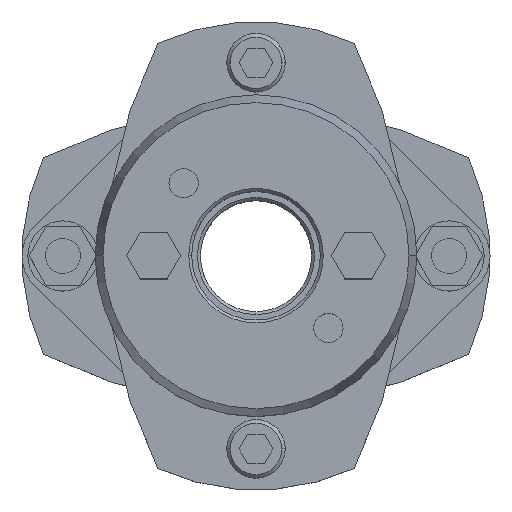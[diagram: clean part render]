
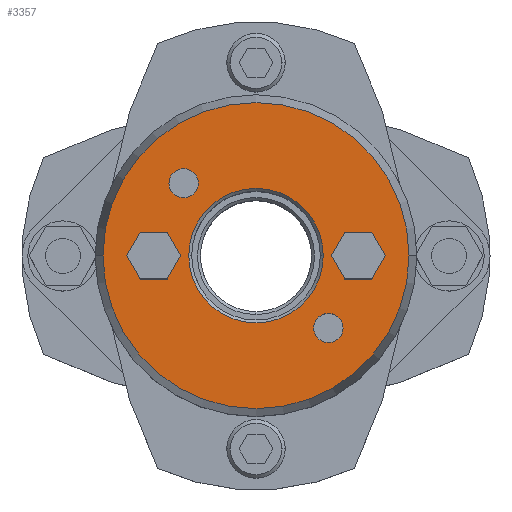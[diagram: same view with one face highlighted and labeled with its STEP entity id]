
A CAD part, top view. The second image highlights one B-rep face of the part: STEP entity #3357.
In plain terms, the highlighted planar face has unit normal (0, 0, 1).
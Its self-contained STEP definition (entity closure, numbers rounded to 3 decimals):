
#1471=CARTESIAN_POINT('',(-11.5,0.,35.875));
#1472=VERTEX_POINT('',#1471);
#1488=CARTESIAN_POINT('',(11.5,0.,35.875));
#1489=VERTEX_POINT('',#1488);
#1496=CARTESIAN_POINT('',(0.,0.,35.875));
#1497=DIRECTION('',(0.0,0.0,1.0));
#1498=DIRECTION('',(-1.0,0.0,0.0));
#1499=AXIS2_PLACEMENT_3D('',#1496,#1497,#1498);
#1500=CIRCLE('',#1499,11.5);
#1501=EDGE_CURVE('',#1489,#1472,#1500,.T.);
#1659=CARTESIAN_POINT('',(26.16,0.,35.875));
#1660=VERTEX_POINT('',#1659);
#1667=CARTESIAN_POINT('',(-26.16,0.,35.875));
#1668=VERTEX_POINT('',#1667);
#1669=CARTESIAN_POINT('',(0.,0.,35.875));
#1670=DIRECTION('',(0.0,0.0,-1.0));
#1671=DIRECTION('',(1.0,0.0,0.0));
#1672=AXIS2_PLACEMENT_3D('',#1669,#1670,#1671);
#1673=CIRCLE('',#1672,26.16);
#1674=EDGE_CURVE('',#1660,#1668,#1673,.T.);
#1769=CARTESIAN_POINT('',(-14.874,12.374,35.875));
#1770=VERTEX_POINT('',#1769);
#1786=CARTESIAN_POINT('',(-9.874,12.374,35.875));
#1787=VERTEX_POINT('',#1786);
#1794=CARTESIAN_POINT('',(-12.374,12.374,35.875));
#1795=DIRECTION('',(0.0,0.0,-1.0));
#1796=DIRECTION('',(-1.0,0.0,0.0));
#1797=AXIS2_PLACEMENT_3D('',#1794,#1795,#1796);
#1798=CIRCLE('',#1797,2.5);
#1799=EDGE_CURVE('',#1770,#1787,#1798,.T.);
#1811=CARTESIAN_POINT('',(9.874,-12.374,35.875));
#1812=VERTEX_POINT('',#1811);
#1828=CARTESIAN_POINT('',(14.874,-12.374,35.875));
#1829=VERTEX_POINT('',#1828);
#1836=CARTESIAN_POINT('',(12.374,-12.374,35.875));
#1837=DIRECTION('',(0.0,0.0,-1.0));
#1838=DIRECTION('',(-1.0,0.0,0.0));
#1839=AXIS2_PLACEMENT_3D('',#1836,#1837,#1838);
#1840=CIRCLE('',#1839,2.5);
#1841=EDGE_CURVE('',#1812,#1829,#1840,.T.);
#2601=CARTESIAN_POINT('',(-22.119,0.,35.875));
#2602=VERTEX_POINT('',#2601);
#2609=CARTESIAN_POINT('',(-19.809,-4.,35.875));
#2610=VERTEX_POINT('',#2609);
#2611=CARTESIAN_POINT('',(-19.809,-4.,35.875));
#2612=DIRECTION('',(-0.5,0.866,0.0));
#2613=VECTOR('',#2612,4.619);
#2614=LINE('',#2611,#2613);
#2615=EDGE_CURVE('',#2610,#2602,#2614,.T.);
#2639=CARTESIAN_POINT('',(-19.809,4.,35.875));
#2640=VERTEX_POINT('',#2639);
#2647=CARTESIAN_POINT('',(-22.119,0.,35.875));
#2648=DIRECTION('',(0.5,0.866,0.0));
#2649=VECTOR('',#2648,4.619);
#2650=LINE('',#2647,#2649);
#2651=EDGE_CURVE('',#2602,#2640,#2650,.T.);
#2670=CARTESIAN_POINT('',(-15.191,4.,35.875));
#2671=VERTEX_POINT('',#2670);
#2678=CARTESIAN_POINT('',(-19.809,4.,35.875));
#2679=DIRECTION('',(1.0,0.0,0.0));
#2680=VECTOR('',#2679,4.619);
#2681=LINE('',#2678,#2680);
#2682=EDGE_CURVE('',#2640,#2671,#2681,.T.);
#2701=CARTESIAN_POINT('',(-12.881,0.,35.875));
#2702=VERTEX_POINT('',#2701);
#2709=CARTESIAN_POINT('',(-15.191,4.,35.875));
#2710=DIRECTION('',(0.5,-0.866,0.0));
#2711=VECTOR('',#2710,4.619);
#2712=LINE('',#2709,#2711);
#2713=EDGE_CURVE('',#2671,#2702,#2712,.T.);
#2732=CARTESIAN_POINT('',(-15.191,-4.,35.875));
#2733=VERTEX_POINT('',#2732);
#2740=CARTESIAN_POINT('',(-12.881,0.,35.875));
#2741=DIRECTION('',(-0.5,-0.866,0.0));
#2742=VECTOR('',#2741,4.619);
#2743=LINE('',#2740,#2742);
#2744=EDGE_CURVE('',#2702,#2733,#2743,.T.);
#2762=CARTESIAN_POINT('',(-15.191,-4.,35.875));
#2763=DIRECTION('',(-1.0,0.0,0.0));
#2764=VECTOR('',#2763,4.619);
#2765=LINE('',#2762,#2764);
#2766=EDGE_CURVE('',#2733,#2610,#2765,.T.);
#2801=CARTESIAN_POINT('',(12.881,0.,35.875));
#2802=VERTEX_POINT('',#2801);
#2809=CARTESIAN_POINT('',(15.191,-4.,35.875));
#2810=VERTEX_POINT('',#2809);
#2811=CARTESIAN_POINT('',(15.191,-4.,35.875));
#2812=DIRECTION('',(-0.5,0.866,0.0));
#2813=VECTOR('',#2812,4.619);
#2814=LINE('',#2811,#2813);
#2815=EDGE_CURVE('',#2810,#2802,#2814,.T.);
#2839=CARTESIAN_POINT('',(15.191,4.,35.875));
#2840=VERTEX_POINT('',#2839);
#2847=CARTESIAN_POINT('',(12.881,0.,35.875));
#2848=DIRECTION('',(0.5,0.866,0.0));
#2849=VECTOR('',#2848,4.619);
#2850=LINE('',#2847,#2849);
#2851=EDGE_CURVE('',#2802,#2840,#2850,.T.);
#2870=CARTESIAN_POINT('',(19.809,4.,35.875));
#2871=VERTEX_POINT('',#2870);
#2878=CARTESIAN_POINT('',(15.191,4.,35.875));
#2879=DIRECTION('',(1.0,0.0,0.0));
#2880=VECTOR('',#2879,4.619);
#2881=LINE('',#2878,#2880);
#2882=EDGE_CURVE('',#2840,#2871,#2881,.T.);
#2901=CARTESIAN_POINT('',(22.119,0.,35.875));
#2902=VERTEX_POINT('',#2901);
#2909=CARTESIAN_POINT('',(19.809,4.,35.875));
#2910=DIRECTION('',(0.5,-0.866,0.0));
#2911=VECTOR('',#2910,4.619);
#2912=LINE('',#2909,#2911);
#2913=EDGE_CURVE('',#2871,#2902,#2912,.T.);
#2932=CARTESIAN_POINT('',(19.809,-4.,35.875));
#2933=VERTEX_POINT('',#2932);
#2940=CARTESIAN_POINT('',(22.119,0.,35.875));
#2941=DIRECTION('',(-0.5,-0.866,0.0));
#2942=VECTOR('',#2941,4.619);
#2943=LINE('',#2940,#2942);
#2944=EDGE_CURVE('',#2902,#2933,#2943,.T.);
#2962=CARTESIAN_POINT('',(19.809,-4.,35.875));
#2963=DIRECTION('',(-1.0,0.0,0.0));
#2964=VECTOR('',#2963,4.619);
#2965=LINE('',#2962,#2964);
#2966=EDGE_CURVE('',#2933,#2810,#2965,.T.);
#2992=CARTESIAN_POINT('',(12.374,-12.374,35.875));
#2993=DIRECTION('',(0.0,0.0,-1.0));
#2994=DIRECTION('',(-1.0,0.0,0.0));
#2995=AXIS2_PLACEMENT_3D('',#2992,#2993,#2994);
#2996=CIRCLE('',#2995,2.5);
#2997=EDGE_CURVE('',#1829,#1812,#2996,.T.);
#3026=CARTESIAN_POINT('',(-12.374,12.374,35.875));
#3027=DIRECTION('',(0.0,0.0,-1.0));
#3028=DIRECTION('',(-1.0,0.0,0.0));
#3029=AXIS2_PLACEMENT_3D('',#3026,#3027,#3028);
#3030=CIRCLE('',#3029,2.5);
#3031=EDGE_CURVE('',#1787,#1770,#3030,.T.);
#3304=CARTESIAN_POINT('',(0.,0.,35.875));
#3305=DIRECTION('',(0.0,0.0,-1.0));
#3306=DIRECTION('',(1.0,0.0,0.0));
#3307=AXIS2_PLACEMENT_3D('',#3304,#3305,#3306);
#3308=CIRCLE('',#3307,26.16);
#3309=EDGE_CURVE('',#1668,#1660,#3308,.T.);
#3314=CARTESIAN_POINT('',(-2.364,0.,35.875));
#3315=DIRECTION('',(0.0,0.0,1.0));
#3316=DIRECTION('',(-1.0,0.0,0.0));
#3317=AXIS2_PLACEMENT_3D('',#3314,#3315,#3316);
#3318=PLANE('',#3317);
#3319=ORIENTED_EDGE('',*,*,#3309,.F.);
#3320=ORIENTED_EDGE('',*,*,#1674,.F.);
#3321=EDGE_LOOP('',(#3319,#3320));
#3322=FACE_OUTER_BOUND('',#3321,.T.);
#3323=ORIENTED_EDGE('',*,*,#2615,.T.);
#3324=ORIENTED_EDGE('',*,*,#2651,.T.);
#3325=ORIENTED_EDGE('',*,*,#2682,.T.);
#3326=ORIENTED_EDGE('',*,*,#2713,.T.);
#3327=ORIENTED_EDGE('',*,*,#2744,.T.);
#3328=ORIENTED_EDGE('',*,*,#2766,.T.);
#3329=EDGE_LOOP('',(#3323,#3324,#3325,#3326,#3327,#3328));
#3330=FACE_BOUND('',#3329,.T.);
#3331=ORIENTED_EDGE('',*,*,#2815,.T.);
#3332=ORIENTED_EDGE('',*,*,#2851,.T.);
#3333=ORIENTED_EDGE('',*,*,#2882,.T.);
#3334=ORIENTED_EDGE('',*,*,#2913,.T.);
#3335=ORIENTED_EDGE('',*,*,#2944,.T.);
#3336=ORIENTED_EDGE('',*,*,#2966,.T.);
#3337=EDGE_LOOP('',(#3331,#3332,#3333,#3334,#3335,#3336));
#3338=FACE_BOUND('',#3337,.T.);
#3339=ORIENTED_EDGE('',*,*,#1841,.T.);
#3340=ORIENTED_EDGE('',*,*,#2997,.T.);
#3341=EDGE_LOOP('',(#3339,#3340));
#3342=FACE_BOUND('',#3341,.T.);
#3343=ORIENTED_EDGE('',*,*,#1799,.T.);
#3344=ORIENTED_EDGE('',*,*,#3031,.T.);
#3345=EDGE_LOOP('',(#3343,#3344));
#3346=FACE_BOUND('',#3345,.T.);
#3347=ORIENTED_EDGE('',*,*,#1501,.F.);
#3348=CARTESIAN_POINT('',(0.,0.,35.875));
#3349=DIRECTION('',(0.0,0.0,1.0));
#3350=DIRECTION('',(-1.0,0.0,0.0));
#3351=AXIS2_PLACEMENT_3D('',#3348,#3349,#3350);
#3352=CIRCLE('',#3351,11.5);
#3353=EDGE_CURVE('',#1472,#1489,#3352,.T.);
#3354=ORIENTED_EDGE('',*,*,#3353,.F.);
#3355=EDGE_LOOP('',(#3347,#3354));
#3356=FACE_BOUND('',#3355,.T.);
#3357=ADVANCED_FACE('',(#3322,#3330,#3338,#3342,#3346,#3356),#3318,.T.);
